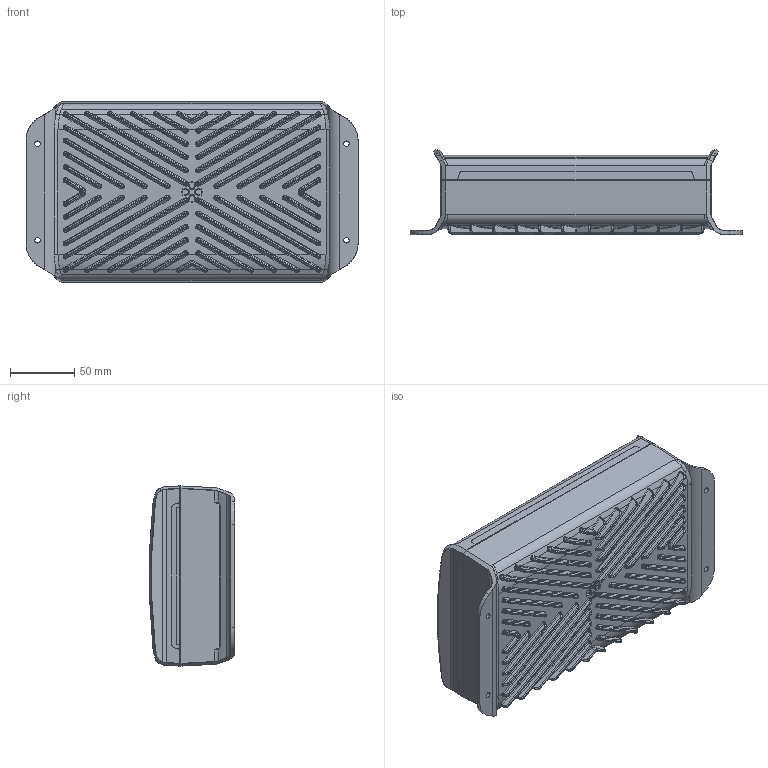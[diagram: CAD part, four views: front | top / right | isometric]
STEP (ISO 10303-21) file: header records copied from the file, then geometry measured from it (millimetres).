
FILE_DESCRIPTION(/* description */ (''),/* implementation_level */ '2;1');
FILE_NAME(/* name */ '\\Storage2\Projekte\P_Internetdaten_Entwicklung\Handelsmarketing\BoVersa\3D-Daten\BOV 211405\BoVersa BOV-FG KWL 211405-xxxx, SET.stp',/* time_stamp */ '2024-05-27T11:09:55+02:00',/* author */ ('haertel'),/* organization */ (''),/* preprocessor_version */ 'ST-DEVELOPER v18.1',/* originating_system */ 'Autodesk Inventor 2022',/* authorisation */ '');
FILE_SCHEMA (('AUTOMOTIVE_DESIGN { 1 0 10303 214 3 1 1 }'));
Products named in the file (5): BoVersa BOV-FG KWL 211405-xxxx, SET; 1011791_3D; 1011792_3D; 1011794_3D; 1011840_3D
Assembly tree (7 placements, depth 2):
  BoVersa BOV-FG KWL 211405-xxxx, SET
    1011791_3D
    1011792_3D
    1011794_3D
    1011840_3D  x4
Bounding box: 258 x 66.29 x 140 mm (x, y, z)
Volume: 441979.1 mm3; surface area: 295002.1 mm2
Topology: 7 solids, 7 shells, 3270 faces, 7854 edges, 4692 vertices
Faces by surface type: bspline 960, cylinder 931, plane 891, cone 234, torus 170, sphere 84
Full cylindrical faces by diameter (mm): 3.242 x14, 3.5 x4, 3.7 x4, 3.95 x4, 4 x7, 4.3 x4, 5.4 x2, 5.5 x1, 6 x2, 6.6 x2, 7 x4
Entity records: 152577 total; most frequent: CARTESIAN_POINT 81853, ORIENTED_EDGE 15172, DIRECTION 14041, EDGE_CURVE 7586, AXIS2_PLACEMENT_3D 5488, VERTEX_POINT 4548, EDGE_LOOP 3324, FACE_OUTER_BOUND 3177
